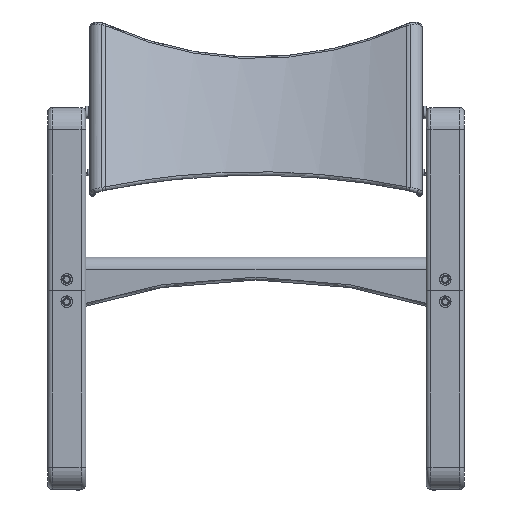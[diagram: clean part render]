
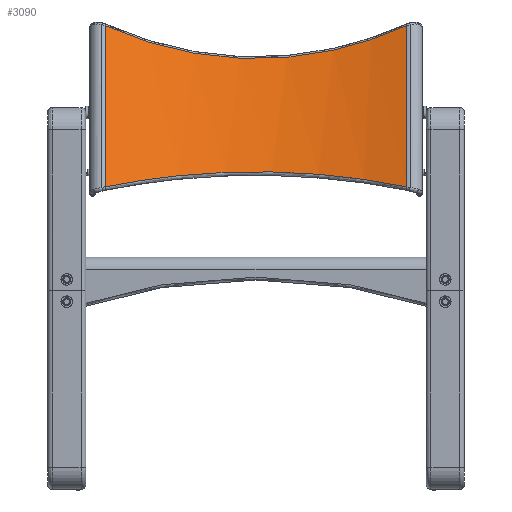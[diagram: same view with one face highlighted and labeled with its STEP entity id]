
A CAD part, front view. The second image highlights one B-rep face of the part: STEP entity #3090.
In plain terms, the highlighted cylindrical face has radius 670.455 mm (diameter 1340.91 mm), a partial arc.
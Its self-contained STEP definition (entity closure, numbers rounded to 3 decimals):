
#1645=B_SPLINE_CURVE_WITH_KNOTS('',1,(#55883,#55884),.UNSPECIFIED.,.F.,
 .F.,(2,2),(0.,267.981),.UNSPECIFIED.);
#1647=B_SPLINE_CURVE_WITH_KNOTS('',1,(#55893,#55894),.UNSPECIFIED.,.F.,
 .F.,(2,2),(-267.981,0.),.UNSPECIFIED.);
#1675=B_SPLINE_CURVE_WITH_KNOTS('',3,(#56077,#56078,#56079,#56080,#56081,
#56082,#56083,#56084,#56085,#56086,#56087,#56088,#56089,#56090,#56091,#56092,
#56093,#56094,#56095,#56096,#56097,#56098,#56099,#56100,#56101,#56102,#56103,
#56104,#56105,#56106),.UNSPECIFIED.,.F.,.F.,(4,2,2,2,2,2,2,2,2,2,2,2,2,
2,4),(0.,61.698,123.397,138.821,146.534,
154.246,185.095,246.794,308.492,316.204,
323.916,339.341,370.19,431.889,493.587),
 .UNSPECIFIED.);
#1700=B_SPLINE_CURVE_WITH_KNOTS('',3,(#56506,#56507,#56508,#56509,#56510,
#56511,#56512,#56513,#56514,#56515,#56516,#56517,#56518,#56519,#56520,#56521,
#56522,#56523,#56524,#56525,#56526,#56527,#56528,#56529,#56530,#56531,#56532,
#56533,#56534,#56535),.UNSPECIFIED.,.F.,.F.,(4,2,2,2,2,2,2,2,2,2,2,2,2,
2,4),(0.,61.698,123.397,138.821,146.534,
154.246,185.095,246.794,308.492,316.204,
323.916,339.341,370.19,431.889,493.587),
 .UNSPECIFIED.);
#3090=ADVANCED_FACE('',(#4609),#20537,.F.);
#4609=FACE_OUTER_BOUND('',#6108,.T.);
#6108=EDGE_LOOP('',(#11591,#11592,#11593,#11594));
#11591=ORIENTED_EDGE('',*,*,#15055,.F.);
#11592=ORIENTED_EDGE('',*,*,#15013,.F.);
#11593=ORIENTED_EDGE('',*,*,#15135,.F.);
#11594=ORIENTED_EDGE('',*,*,#15017,.F.);
#15013=EDGE_CURVE('',#19674,#19675,#1645,.T.);
#15017=EDGE_CURVE('',#19680,#19681,#1647,.T.);
#15055=EDGE_CURVE('',#19675,#19680,#1675,.T.);
#15135=EDGE_CURVE('',#19681,#19674,#1700,.T.);
#19674=VERTEX_POINT('',#55743);
#19675=VERTEX_POINT('',#55744);
#19680=VERTEX_POINT('',#55749);
#19681=VERTEX_POINT('',#55750);
#20537=CYLINDRICAL_SURFACE('',#22989,670.455);
#22989=AXIS2_PLACEMENT_3D('',#53556,#26108,$);
#26108=DIRECTION('',(0.,0.326,0.946));
#53556=CARTESIAN_POINT('',(0.,6647.028,431.072));
#55743=CARTESIAN_POINT('',(237.134,7283.603,353.592));
#55744=CARTESIAN_POINT('',(237.134,7196.357,100.211));
#55749=CARTESIAN_POINT('',(-237.134,7196.357,100.211));
#55750=CARTESIAN_POINT('',(-237.134,7283.603,353.592));
#55883=CARTESIAN_POINT('',(237.134,7283.603,353.592));
#55884=CARTESIAN_POINT('',(237.134,7196.357,100.211));
#55893=CARTESIAN_POINT('',(-237.134,7196.357,100.211));
#55894=CARTESIAN_POINT('',(-237.134,7283.603,353.592));
#56077=CARTESIAN_POINT('',(237.134,7196.357,100.211));
#56078=CARTESIAN_POINT('',(218.697,7205.032,103.991));
#56079=CARTESIAN_POINT('',(199.885,7212.735,107.362));
#56080=CARTESIAN_POINT('',(161.48,7226.123,113.233));
#56081=CARTESIAN_POINT('',(141.887,7231.809,115.735));
#56082=CARTESIAN_POINT('',(116.874,7237.574,118.274));
#56083=CARTESIAN_POINT('',(111.845,7238.66,118.753));
#56084=CARTESIAN_POINT('',(104.262,7240.185,119.425));
#56085=CARTESIAN_POINT('',(101.726,7240.677,119.642));
#56086=CARTESIAN_POINT('',(96.648,7241.624,120.06));
#56087=CARTESIAN_POINT('',(94.108,7242.079,120.261));
#56088=CARTESIAN_POINT('',(81.406,7244.263,121.224));
#56089=CARTESIAN_POINT('',(71.236,7245.716,121.866));
#56090=CARTESIAN_POINT('',(40.698,7249.199,123.404));
#56091=CARTESIAN_POINT('',(20.304,7250.357,123.916));
#56092=CARTESIAN_POINT('',(-20.557,7250.347,123.912));
#56093=CARTESIAN_POINT('',(-41.024,7249.18,123.396));
#56094=CARTESIAN_POINT('',(-64.09,7246.528,122.225));
#56095=CARTESIAN_POINT('',(-66.654,7246.215,122.086));
#56096=CARTESIAN_POINT('',(-71.782,7245.551,121.793));
#56097=CARTESIAN_POINT('',(-74.348,7245.2,121.638));
#56098=CARTESIAN_POINT('',(-82.022,7244.095,121.15));
#56099=CARTESIAN_POINT('',(-87.112,7243.288,120.794));
#56100=CARTESIAN_POINT('',(-102.31,7240.657,119.633));
#56101=CARTESIAN_POINT('',(-112.342,7238.626,118.738));
#56102=CARTESIAN_POINT('',(-142.156,7231.731,115.7));
#56103=CARTESIAN_POINT('',(-161.652,7226.068,113.209));
#56104=CARTESIAN_POINT('',(-199.926,7212.716,107.353));
#56105=CARTESIAN_POINT('',(-218.704,7205.029,103.99));
#56106=CARTESIAN_POINT('',(-237.134,7196.357,100.211));
#56506=CARTESIAN_POINT('',(-237.134,7283.603,353.592));
#56507=CARTESIAN_POINT('',(-218.697,7288.112,345.273));
#56508=CARTESIAN_POINT('',(-199.885,7292.107,337.875));
#56509=CARTESIAN_POINT('',(-161.48,7299.042,325.005));
#56510=CARTESIAN_POINT('',(-141.887,7301.983,319.533));
#56511=CARTESIAN_POINT('',(-116.874,7304.962,313.983));
#56512=CARTESIAN_POINT('',(-111.845,7305.523,312.937));
#56513=CARTESIAN_POINT('',(-104.262,7306.311,311.468));
#56514=CARTESIAN_POINT('',(-101.726,7306.565,310.994));
#56515=CARTESIAN_POINT('',(-96.648,7307.054,310.082));
#56516=CARTESIAN_POINT('',(-94.108,7307.289,309.644));
#56517=CARTESIAN_POINT('',(-81.406,7308.417,307.54));
#56518=CARTESIAN_POINT('',(-71.236,7309.167,306.14));
#56519=CARTESIAN_POINT('',(-40.698,7310.964,302.783));
#56520=CARTESIAN_POINT('',(-20.304,7311.561,301.667));
#56521=CARTESIAN_POINT('',(20.557,7311.556,301.676));
#56522=CARTESIAN_POINT('',(41.024,7310.954,302.802));
#56523=CARTESIAN_POINT('',(64.09,7309.586,305.357));
#56524=CARTESIAN_POINT('',(66.654,7309.424,305.659));
#56525=CARTESIAN_POINT('',(71.782,7309.082,306.299));
#56526=CARTESIAN_POINT('',(74.348,7308.901,306.637));
#56527=CARTESIAN_POINT('',(82.022,7308.33,307.702));
#56528=CARTESIAN_POINT('',(87.112,7307.913,308.48));
#56529=CARTESIAN_POINT('',(102.31,7306.555,311.014));
#56530=CARTESIAN_POINT('',(112.342,7305.506,312.97));
#56531=CARTESIAN_POINT('',(142.156,7301.942,319.608));
#56532=CARTESIAN_POINT('',(161.652,7299.013,325.058));
#56533=CARTESIAN_POINT('',(199.926,7292.097,337.892));
#56534=CARTESIAN_POINT('',(218.704,7288.11,345.276));
#56535=CARTESIAN_POINT('',(237.134,7283.603,353.592));
